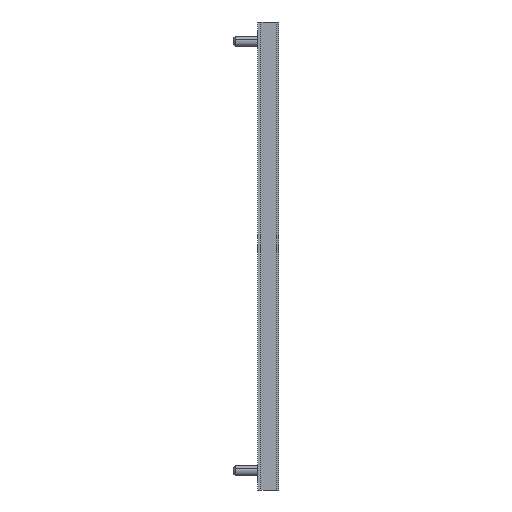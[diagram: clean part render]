
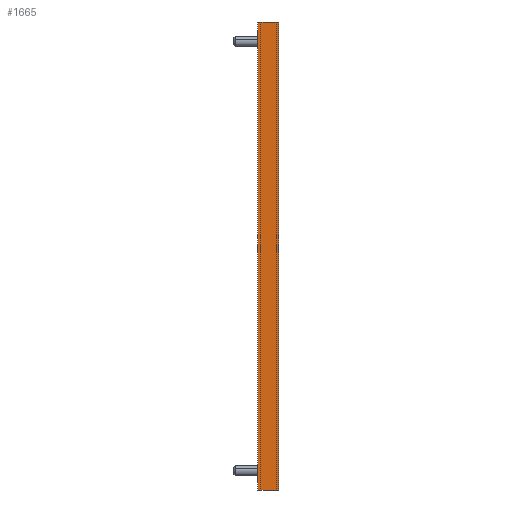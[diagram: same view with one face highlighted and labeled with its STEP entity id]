
A CAD part, left-side view. The second image highlights one B-rep face of the part: STEP entity #1665.
In plain terms, the highlighted planar face has unit normal (-1, 0, 0).
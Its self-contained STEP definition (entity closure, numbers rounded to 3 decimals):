
#168 = EDGE_CURVE ( 'NONE', #2356, #1866, #3343, .T. ) ;
#219 = AXIS2_PLACEMENT_3D ( 'NONE', #1148, #704, #2078 ) ;
#252 = DIRECTION ( 'NONE',  ( 0., 1., 0. ) ) ;
#320 = DIRECTION ( 'NONE',  ( 0., -1., 0. ) ) ;
#414 = CARTESIAN_POINT ( 'NONE',  ( -8., 0., 279. ) ) ;
#426 = CARTESIAN_POINT ( 'NONE',  ( -8., 12.5, 279. ) ) ;
#433 = VERTEX_POINT ( 'NONE', #1216 ) ;
#494 = CARTESIAN_POINT ( 'NONE',  ( -8., 12.5, 279. ) ) ;
#546 = DIRECTION ( 'NONE',  ( 0., 1., 0. ) ) ;
#588 = EDGE_CURVE ( 'NONE', #3314, #4104, #1945, .T. ) ;
#599 = EDGE_CURVE ( 'NONE', #2492, #1937, #1647, .T. ) ;
#626 = ORIENTED_EDGE ( 'NONE', *, *, #168, .T. ) ;
#704 = DIRECTION ( 'NONE',  ( -1., 0., 0. ) ) ;
#738 = EDGE_CURVE ( 'NONE', #4104, #433, #1763, .T. ) ;
#820 = EDGE_CURVE ( 'NONE', #433, #2492, #4045, .T. ) ;
#875 = EDGE_LOOP ( 'NONE', ( #2224, #626, #2378, #2506, #4108, #2204, #1031, #2763 ) ) ;
#1031 = ORIENTED_EDGE ( 'NONE', *, *, #599, .T. ) ;
#1076 = VECTOR ( 'NONE', #320, 1000. ) ;
#1148 = CARTESIAN_POINT ( 'NONE',  ( -8., 0., 279. ) ) ;
#1216 = CARTESIAN_POINT ( 'NONE',  ( -8., 0., 279. ) ) ;
#1237 = VECTOR ( 'NONE', #3404, 1000. ) ;
#1244 = LINE ( 'NONE', #2997, #1237 ) ;
#1306 = VERTEX_POINT ( 'NONE', #426 ) ;
#1507 = VECTOR ( 'NONE', #252, 1000. ) ;
#1588 = DIRECTION ( 'NONE',  ( 0., -1., 0. ) ) ;
#1629 = CARTESIAN_POINT ( 'NONE',  ( -8., 0., 0. ) ) ;
#1647 = LINE ( 'NONE', #3659, #3109 ) ;
#1665 = ADVANCED_FACE ( 'NONE', ( #2145 ), #3536, .T. ) ;
#1711 = CARTESIAN_POINT ( 'NONE',  ( -8., 9.3, 279. ) ) ;
#1728 = VECTOR ( 'NONE', #1588, 1000. ) ;
#1763 = LINE ( 'NONE', #414, #3408 ) ;
#1866 = VERTEX_POINT ( 'NONE', #2406 ) ;
#1937 = VERTEX_POINT ( 'NONE', #1711 ) ;
#1945 = LINE ( 'NONE', #2341, #2390 ) ;
#1947 = VECTOR ( 'NONE', #2239, 1000. ) ;
#2048 = LINE ( 'NONE', #3505, #1076 ) ;
#2078 = DIRECTION ( 'NONE',  ( 0., 0., 1. ) ) ;
#2145 = FACE_OUTER_BOUND ( 'NONE', #875, .T. ) ;
#2204 = ORIENTED_EDGE ( 'NONE', *, *, #820, .T. ) ;
#2224 = ORIENTED_EDGE ( 'NONE', *, *, #2664, .F. ) ;
#2239 = DIRECTION ( 'NONE',  ( 0., 0., 1. ) ) ;
#2341 = CARTESIAN_POINT ( 'NONE',  ( -8., 0., 0. ) ) ;
#2356 = VERTEX_POINT ( 'NONE', #4479 ) ;
#2362 = CARTESIAN_POINT ( 'NONE',  ( -8., 3.2, 279. ) ) ;
#2368 = EDGE_CURVE ( 'NONE', #1306, #1937, #2048, .T. ) ;
#2378 = ORIENTED_EDGE ( 'NONE', *, *, #4047, .T. ) ;
#2390 = VECTOR ( 'NONE', #3728, 1000. ) ;
#2406 = CARTESIAN_POINT ( 'NONE',  ( -8., 9.3, 0. ) ) ;
#2473 = DIRECTION ( 'NONE',  ( 0., 0., 1. ) ) ;
#2492 = VERTEX_POINT ( 'NONE', #2362 ) ;
#2506 = ORIENTED_EDGE ( 'NONE', *, *, #588, .T. ) ;
#2664 = EDGE_CURVE ( 'NONE', #2356, #1306, #3676, .T. ) ;
#2713 = CARTESIAN_POINT ( 'NONE',  ( -8., 3.2, 0. ) ) ;
#2763 = ORIENTED_EDGE ( 'NONE', *, *, #2368, .F. ) ;
#2997 = CARTESIAN_POINT ( 'NONE',  ( -8., 0., 0. ) ) ;
#3109 = VECTOR ( 'NONE', #546, 1000. ) ;
#3314 = VERTEX_POINT ( 'NONE', #2713 ) ;
#3343 = LINE ( 'NONE', #4362, #1728 ) ;
#3404 = DIRECTION ( 'NONE',  ( 0., -1., 0. ) ) ;
#3408 = VECTOR ( 'NONE', #2473, 1000. ) ;
#3440 = CARTESIAN_POINT ( 'NONE',  ( -8., 0., 279. ) ) ;
#3505 = CARTESIAN_POINT ( 'NONE',  ( -8., 12.5, 279. ) ) ;
#3536 = PLANE ( 'NONE',  #219 ) ;
#3659 = CARTESIAN_POINT ( 'NONE',  ( -8., 0., 279. ) ) ;
#3676 = LINE ( 'NONE', #494, #1947 ) ;
#3728 = DIRECTION ( 'NONE',  ( 0., -1., 0. ) ) ;
#4045 = LINE ( 'NONE', #3440, #1507 ) ;
#4047 = EDGE_CURVE ( 'NONE', #1866, #3314, #1244, .T. ) ;
#4104 = VERTEX_POINT ( 'NONE', #1629 ) ;
#4108 = ORIENTED_EDGE ( 'NONE', *, *, #738, .T. ) ;
#4362 = CARTESIAN_POINT ( 'NONE',  ( -8., 0., 0. ) ) ;
#4479 = CARTESIAN_POINT ( 'NONE',  ( -8., 12.5, 0. ) ) ;
